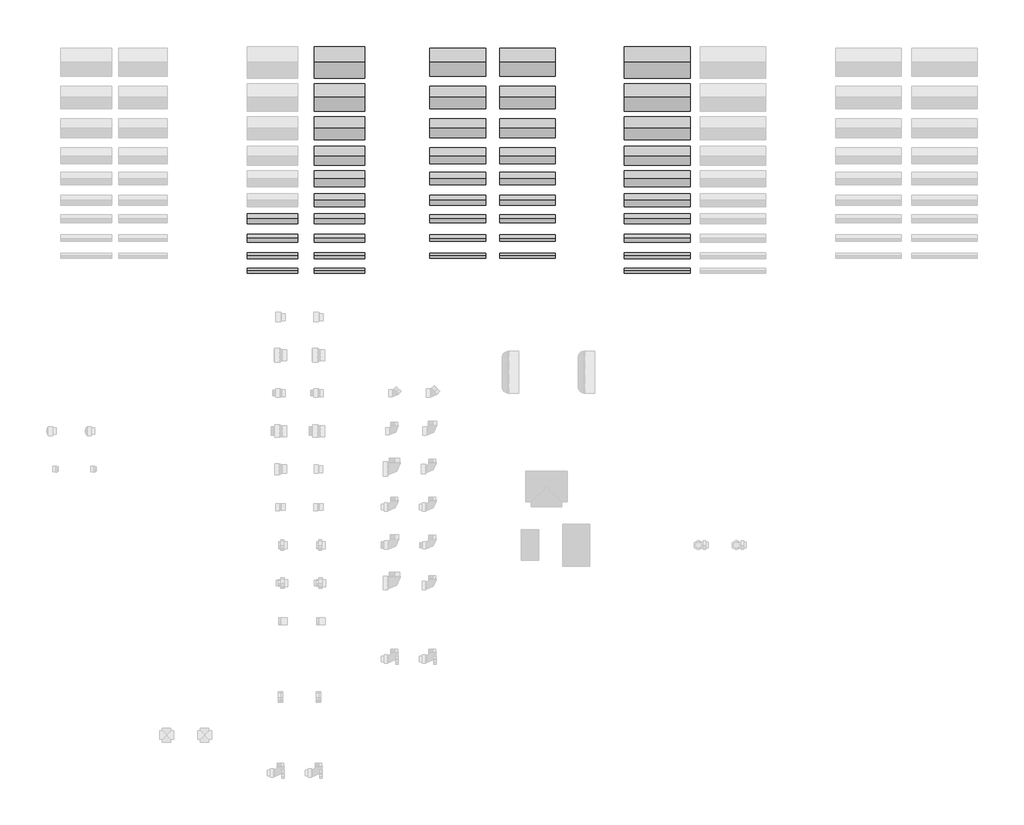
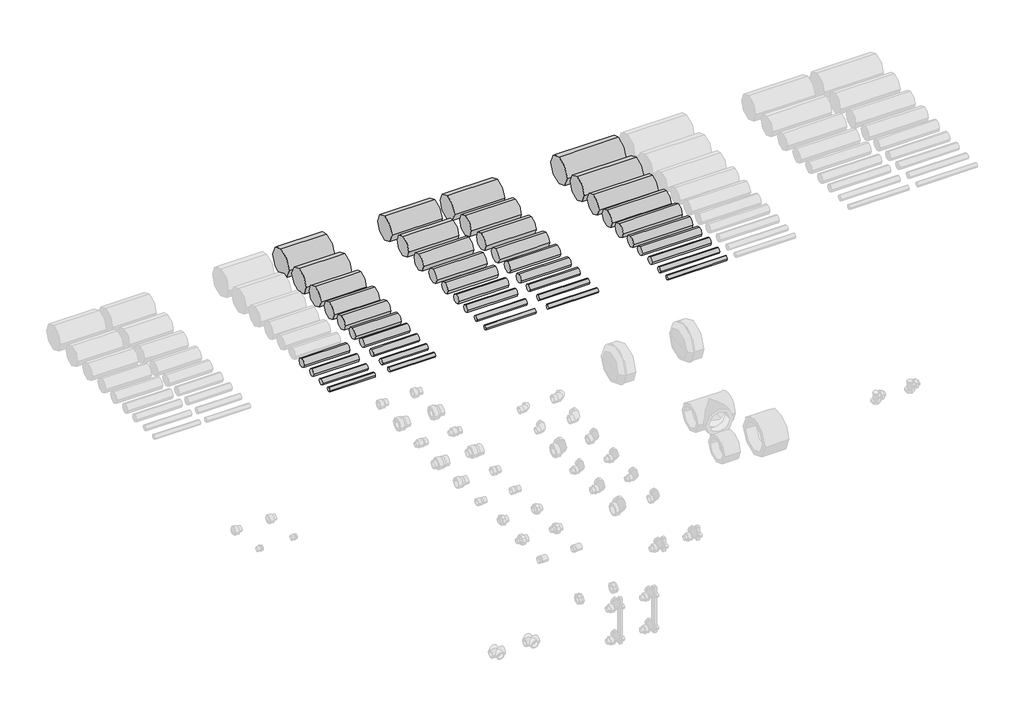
# One storey, part 2 of 4: 42 pipe segments.
"""IFC4 building model written with IfcOpenShell, lengths in millimetres."""

from ifc_helpers import new_model, si_unit, point, frame, frame_2d, origin, place, context, project, spatial, circle_curve, trimmed, segment, composite_curve, outline, extrude, element, save

model = new_model("IFC4")

# Units and contexts
model_context = context("Model", 3, world=origin())
ifc_project = project(units=[si_unit("LENGTHUNIT", "METRE", prefix="MILLI")], contexts=[model_context])

# Site, building, storey
site = spatial("IfcSite", under=ifc_project)
building = spatial("IfcBuilding", under=site)
storey = spatial("IfcBuildingStorey", under=building, Name="Уровень 1", Elevation=0.0)

# Pipe segments
placement = place(None, origin())
element("IfcPipeSegment", 1, ObjectType="PN20/SDR6, 4 м_Серый цвет", at=placement, inside=storey, context=model_context, shape_type="SweptSolid", body=[
    extrude(outline(composite_curve([segment(trimmed(circle_curve(frame_2d((4230.5606883, 0.0)), 20.0), [point((4210.5606883, 0.0))], [point((4230.5606883, 20.0))], False, "CARTESIAN"), True, "CONTINUOUS"), segment(trimmed(circle_curve(frame_2d((4230.5606883, 0.0)), 20.0), [point((4230.5606883, 20.0))], [point((4250.5606883, 0.0))], False, "CARTESIAN"), True, "CONTINUOUS"), segment(trimmed(circle_curve(frame_2d((4230.5606883, 0.0)), 20.0), [point((4250.5606883, 0.0))], [point((4230.5606883, -20.0))], False, "CARTESIAN"), True, "CONTINUOUS"), segment(trimmed(circle_curve(frame_2d((4230.5606883, 0.0)), 20.0), [point((4230.5606883, -20.0))], [point((4210.5606883, 0.0))], False, "CARTESIAN"), True, "CONTINUOUS")], self_intersect=False)), frame((-2594.1554508, 0.0, 0.0), z_axis=(1.0, 0.0, 0.0), x_axis=(0.0, 1.0, 0.0)), (0.0, 0.0, 1.0), 200.0),
])
element("IfcPipeSegment", 2, ObjectType="PN20/SDR6, 4 м_Серый цвет", at=placement, inside=storey, context=model_context, shape_type="SweptSolid", body=[
    extrude(outline(composite_curve([segment(trimmed(circle_curve(frame_2d((4154.7986605, 0.0)), 16.0), [point((4138.7986605, 0.0))], [point((4154.7986605, 16.0))], False, "CARTESIAN"), True, "CONTINUOUS"), segment(trimmed(circle_curve(frame_2d((4154.7986605, 0.0)), 16.0), [point((4154.7986605, 16.0))], [point((4170.7986605, 0.0))], False, "CARTESIAN"), True, "CONTINUOUS"), segment(trimmed(circle_curve(frame_2d((4154.7986605, 0.0)), 16.0), [point((4170.7986605, 0.0))], [point((4154.7986605, -16.0))], False, "CARTESIAN"), True, "CONTINUOUS"), segment(trimmed(circle_curve(frame_2d((4154.7986605, 0.0)), 16.0), [point((4154.7986605, -16.0))], [point((4138.7986605, 0.0))], False, "CARTESIAN"), True, "CONTINUOUS")], self_intersect=False)), frame((-2594.1554508, 0.0, 0.0), z_axis=(1.0, 0.0, 0.0), x_axis=(0.0, 1.0, 0.0)), (0.0, 0.0, 1.0), 200.0),
])
element("IfcPipeSegment", 3, ObjectType="PN20/SDR6, 4 м_Серый цвет", at=placement, inside=storey, context=model_context, shape_type="SweptSolid", body=[
    extrude(outline(composite_curve([segment(trimmed(circle_curve(frame_2d((4085.0159711, 0.0)), 12.5), [point((4072.5159711, 0.0))], [point((4085.0159711, 12.5))], False, "CARTESIAN"), True, "CONTINUOUS"), segment(trimmed(circle_curve(frame_2d((4085.0159711, 0.0)), 12.5), [point((4085.0159711, 12.5))], [point((4097.5159711, 0.0))], False, "CARTESIAN"), True, "CONTINUOUS"), segment(trimmed(circle_curve(frame_2d((4085.0159711, 0.0)), 12.5), [point((4097.5159711, 0.0))], [point((4085.0159711, -12.5))], False, "CARTESIAN"), True, "CONTINUOUS"), segment(trimmed(circle_curve(frame_2d((4085.0159711, 0.0)), 12.5), [point((4085.0159711, -12.5))], [point((4072.5159711, 0.0))], False, "CARTESIAN"), True, "CONTINUOUS")], self_intersect=False)), frame((-2594.1554508, 0.0, 0.0), z_axis=(1.0, 0.0, 0.0), x_axis=(0.0, 1.0, 0.0)), (0.0, 0.0, 1.0), 200.0),
])
element("IfcPipeSegment", 4, ObjectType="PN20/SDR6, 4 м_Серый цвет", at=placement, inside=storey, context=model_context, shape_type="SweptSolid", body=[
    extrude(outline(composite_curve([segment(trimmed(circle_curve(frame_2d((4025.8339977, 0.0)), 10.0), [point((4015.8339977, 0.0))], [point((4025.8339977, 10.0))], False, "CARTESIAN"), True, "CONTINUOUS"), segment(trimmed(circle_curve(frame_2d((4025.8339977, 0.0)), 10.0), [point((4025.8339977, 10.0))], [point((4035.8339977, 0.0))], False, "CARTESIAN"), True, "CONTINUOUS"), segment(trimmed(circle_curve(frame_2d((4025.8339977, 0.0)), 10.0), [point((4035.8339977, 0.0))], [point((4025.8339977, -10.0))], False, "CARTESIAN"), True, "CONTINUOUS"), segment(trimmed(circle_curve(frame_2d((4025.8339977, 0.0)), 10.0), [point((4025.8339977, -10.0))], [point((4015.8339977, 0.0))], False, "CARTESIAN"), True, "CONTINUOUS")], self_intersect=False)), frame((-2594.1554508, 0.0, 0.0), z_axis=(1.0, 0.0, 0.0), x_axis=(0.0, 1.0, 0.0)), (0.0, 0.0, 1.0), 200.0),
])
element("IfcPipeSegment", 5, ObjectType="PN20/SDR6, 4 м_Белый цвет", at=placement, inside=storey, context=model_context, shape_type="SweptSolid", body=[
    extrude(outline(composite_curve([segment(trimmed(circle_curve(frame_2d((4848.4107276, 0.0)), 62.5), [point((4785.9107276, 0.0))], [point((4848.4107276, 62.5))], False, "CARTESIAN"), True, "CONTINUOUS"), segment(trimmed(circle_curve(frame_2d((4848.4107276, 0.0)), 62.5), [point((4848.4107276, 62.5))], [point((4910.9107276, 0.0))], False, "CARTESIAN"), True, "CONTINUOUS"), segment(trimmed(circle_curve(frame_2d((4848.4107276, 0.0)), 62.5), [point((4910.9107276, 0.0))], [point((4848.4107276, -62.5))], False, "CARTESIAN"), True, "CONTINUOUS"), segment(trimmed(circle_curve(frame_2d((4848.4107276, 0.0)), 62.5), [point((4848.4107276, -62.5))], [point((4785.9107276, 0.0))], False, "CARTESIAN"), True, "CONTINUOUS")], self_intersect=False)), frame((-2329.1554508, 0.0, 0.0), z_axis=(1.0, 0.0, 0.0), x_axis=(0.0, 1.0, 0.0)), (0.0, 0.0, 1.0), 200.0),
])
element("IfcPipeSegment", 6, ObjectType="PN20/SDR6, 4 м_Белый цвет", at=placement, inside=storey, context=model_context, shape_type="SweptSolid", body=[
    extrude(outline(composite_curve([segment(trimmed(circle_curve(frame_2d((4709.8355043, 0.0)), 55.0), [point((4654.8355043, 0.0))], [point((4709.8355043, 55.0))], False, "CARTESIAN"), True, "CONTINUOUS"), segment(trimmed(circle_curve(frame_2d((4709.8355043, 0.0)), 55.0), [point((4709.8355043, 55.0))], [point((4764.8355043, 0.0))], False, "CARTESIAN"), True, "CONTINUOUS"), segment(trimmed(circle_curve(frame_2d((4709.8355043, 0.0)), 55.0), [point((4764.8355043, 0.0))], [point((4709.8355043, -55.0))], False, "CARTESIAN"), True, "CONTINUOUS"), segment(trimmed(circle_curve(frame_2d((4709.8355043, 0.0)), 55.0), [point((4709.8355043, -55.0))], [point((4654.8355043, 0.0))], False, "CARTESIAN"), True, "CONTINUOUS")], self_intersect=False)), frame((-2329.1554508, 0.0, 0.0), z_axis=(1.0, 0.0, 0.0), x_axis=(0.0, 1.0, 0.0)), (0.0, 0.0, 1.0), 200.0),
])
element("IfcPipeSegment", 7, ObjectType="PN20/SDR6, 4 м_Белый цвет", at=placement, inside=storey, context=model_context, shape_type="SweptSolid", body=[
    extrude(outline(composite_curve([segment(trimmed(circle_curve(frame_2d((4588.2982183, 0.0)), 45.0), [point((4543.2982183, 0.0))], [point((4588.2982183, 45.0))], False, "CARTESIAN"), True, "CONTINUOUS"), segment(trimmed(circle_curve(frame_2d((4588.2982183, 0.0)), 45.0), [point((4588.2982183, 45.0))], [point((4633.2982183, 0.0))], False, "CARTESIAN"), True, "CONTINUOUS"), segment(trimmed(circle_curve(frame_2d((4588.2982183, 0.0)), 45.0), [point((4633.2982183, 0.0))], [point((4588.2982183, -45.0))], False, "CARTESIAN"), True, "CONTINUOUS"), segment(trimmed(circle_curve(frame_2d((4588.2982183, 0.0)), 45.0), [point((4588.2982183, -45.0))], [point((4543.2982183, 0.0))], False, "CARTESIAN"), True, "CONTINUOUS")], self_intersect=False)), frame((-2329.1554508, 0.0, 0.0), z_axis=(1.0, 0.0, 0.0), x_axis=(0.0, 1.0, 0.0)), (0.0, 0.0, 1.0), 200.0),
])
element("IfcPipeSegment", 8, ObjectType="PN20/SDR6, 4 м_Белый цвет", at=placement, inside=storey, context=model_context, shape_type="SweptSolid", body=[
    extrude(outline(composite_curve([segment(trimmed(circle_curve(frame_2d((4480.6238499, 0.0)), 37.5), [point((4443.1238499, 0.0))], [point((4480.6238499, 37.5))], False, "CARTESIAN"), True, "CONTINUOUS"), segment(trimmed(circle_curve(frame_2d((4480.6238499, 0.0)), 37.5), [point((4480.6238499, 37.5))], [point((4518.1238499, 0.0))], False, "CARTESIAN"), True, "CONTINUOUS"), segment(trimmed(circle_curve(frame_2d((4480.6238499, 0.0)), 37.5), [point((4518.1238499, 0.0))], [point((4480.6238499, -37.5))], False, "CARTESIAN"), True, "CONTINUOUS"), segment(trimmed(circle_curve(frame_2d((4480.6238499, 0.0)), 37.5), [point((4480.6238499, -37.5))], [point((4443.1238499, 0.0))], False, "CARTESIAN"), True, "CONTINUOUS")], self_intersect=False)), frame((-2329.1554508, 0.0, 0.0), z_axis=(1.0, 0.0, 0.0), x_axis=(0.0, 1.0, 0.0)), (0.0, 0.0, 1.0), 200.0),
])
element("IfcPipeSegment", 9, ObjectType="PN20/SDR6, 4 м_Белый цвет", at=placement, inside=storey, context=model_context, shape_type="SweptSolid", body=[
    extrude(outline(composite_curve([segment(trimmed(circle_curve(frame_2d((4389.5013485, 0.0)), 31.5), [point((4358.0013485, 0.0))], [point((4389.5013485, 31.5))], False, "CARTESIAN"), True, "CONTINUOUS"), segment(trimmed(circle_curve(frame_2d((4389.5013485, 0.0)), 31.5), [point((4389.5013485, 31.5))], [point((4421.0013485, 0.0))], False, "CARTESIAN"), True, "CONTINUOUS"), segment(trimmed(circle_curve(frame_2d((4389.5013485, 0.0)), 31.5), [point((4421.0013485, 0.0))], [point((4389.5013485, -31.5))], False, "CARTESIAN"), True, "CONTINUOUS"), segment(trimmed(circle_curve(frame_2d((4389.5013485, 0.0)), 31.5), [point((4389.5013485, -31.5))], [point((4358.0013485, 0.0))], False, "CARTESIAN"), True, "CONTINUOUS")], self_intersect=False)), frame((-2329.1554508, 0.0, 0.0), z_axis=(1.0, 0.0, 0.0), x_axis=(0.0, 1.0, 0.0)), (0.0, 0.0, 1.0), 200.0),
])
element("IfcPipeSegment", 10, ObjectType="PN20/SDR6, 4 м_Белый цвет", at=placement, inside=storey, context=model_context, shape_type="SweptSolid", body=[
    extrude(outline(composite_curve([segment(trimmed(circle_curve(frame_2d((4303.8771946, 0.0)), 25.0), [point((4278.8771946, 0.0))], [point((4303.8771946, 25.0))], False, "CARTESIAN"), True, "CONTINUOUS"), segment(trimmed(circle_curve(frame_2d((4303.8771946, 0.0)), 25.0), [point((4303.8771946, 25.0))], [point((4328.8771946, 0.0))], False, "CARTESIAN"), True, "CONTINUOUS"), segment(trimmed(circle_curve(frame_2d((4303.8771946, 0.0)), 25.0), [point((4328.8771946, 0.0))], [point((4303.8771946, -25.0))], False, "CARTESIAN"), True, "CONTINUOUS"), segment(trimmed(circle_curve(frame_2d((4303.8771946, 0.0)), 25.0), [point((4303.8771946, -25.0))], [point((4278.8771946, 0.0))], False, "CARTESIAN"), True, "CONTINUOUS")], self_intersect=False)), frame((-2329.1554508, 0.0, 0.0), z_axis=(1.0, 0.0, 0.0), x_axis=(0.0, 1.0, 0.0)), (0.0, 0.0, 1.0), 200.0),
])
element("IfcPipeSegment", 11, ObjectType="PN20/SDR6, 4 м_Белый цвет", at=placement, inside=storey, context=model_context, shape_type="SweptSolid", body=[
    extrude(outline(composite_curve([segment(trimmed(circle_curve(frame_2d((4230.5606883, 0.0)), 20.0), [point((4210.5606883, 0.0))], [point((4230.5606883, 20.0))], False, "CARTESIAN"), True, "CONTINUOUS"), segment(trimmed(circle_curve(frame_2d((4230.5606883, 0.0)), 20.0), [point((4230.5606883, 20.0))], [point((4250.5606883, 0.0))], False, "CARTESIAN"), True, "CONTINUOUS"), segment(trimmed(circle_curve(frame_2d((4230.5606883, 0.0)), 20.0), [point((4250.5606883, 0.0))], [point((4230.5606883, -20.0))], False, "CARTESIAN"), True, "CONTINUOUS"), segment(trimmed(circle_curve(frame_2d((4230.5606883, 0.0)), 20.0), [point((4230.5606883, -20.0))], [point((4210.5606883, 0.0))], False, "CARTESIAN"), True, "CONTINUOUS")], self_intersect=False)), frame((-2329.1554508, 0.0, 0.0), z_axis=(1.0, 0.0, 0.0), x_axis=(0.0, 1.0, 0.0)), (0.0, 0.0, 1.0), 200.0),
])
element("IfcPipeSegment", 12, ObjectType="PN20/SDR6, 4 м_Белый цвет", at=placement, inside=storey, context=model_context, shape_type="SweptSolid", body=[
    extrude(outline(composite_curve([segment(trimmed(circle_curve(frame_2d((4154.7986605, 0.0)), 16.0), [point((4138.7986605, 0.0))], [point((4154.7986605, 16.0))], False, "CARTESIAN"), True, "CONTINUOUS"), segment(trimmed(circle_curve(frame_2d((4154.7986605, 0.0)), 16.0), [point((4154.7986605, 16.0))], [point((4170.7986605, 0.0))], False, "CARTESIAN"), True, "CONTINUOUS"), segment(trimmed(circle_curve(frame_2d((4154.7986605, 0.0)), 16.0), [point((4170.7986605, 0.0))], [point((4154.7986605, -16.0))], False, "CARTESIAN"), True, "CONTINUOUS"), segment(trimmed(circle_curve(frame_2d((4154.7986605, 0.0)), 16.0), [point((4154.7986605, -16.0))], [point((4138.7986605, 0.0))], False, "CARTESIAN"), True, "CONTINUOUS")], self_intersect=False)), frame((-2329.1554508, 0.0, 0.0), z_axis=(1.0, 0.0, 0.0), x_axis=(0.0, 1.0, 0.0)), (0.0, 0.0, 1.0), 200.0),
])
element("IfcPipeSegment", 13, ObjectType="PN20/SDR6, 4 м_Белый цвет", at=placement, inside=storey, context=model_context, shape_type="SweptSolid", body=[
    extrude(outline(composite_curve([segment(trimmed(circle_curve(frame_2d((4085.0159711, 0.0)), 12.5), [point((4072.5159711, 0.0))], [point((4085.0159711, 12.5))], False, "CARTESIAN"), True, "CONTINUOUS"), segment(trimmed(circle_curve(frame_2d((4085.0159711, 0.0)), 12.5), [point((4085.0159711, 12.5))], [point((4097.5159711, 0.0))], False, "CARTESIAN"), True, "CONTINUOUS"), segment(trimmed(circle_curve(frame_2d((4085.0159711, 0.0)), 12.5), [point((4097.5159711, 0.0))], [point((4085.0159711, -12.5))], False, "CARTESIAN"), True, "CONTINUOUS"), segment(trimmed(circle_curve(frame_2d((4085.0159711, 0.0)), 12.5), [point((4085.0159711, -12.5))], [point((4072.5159711, 0.0))], False, "CARTESIAN"), True, "CONTINUOUS")], self_intersect=False)), frame((-2329.1554508, 0.0, 0.0), z_axis=(1.0, 0.0, 0.0), x_axis=(0.0, 1.0, 0.0)), (0.0, 0.0, 1.0), 200.0),
])
element("IfcPipeSegment", 14, ObjectType="PN20/SDR6, 4 м_Белый цвет", at=placement, inside=storey, context=model_context, shape_type="SweptSolid", body=[
    extrude(outline(composite_curve([segment(trimmed(circle_curve(frame_2d((4025.8339977, 0.0)), 10.0), [point((4015.8339977, 0.0))], [point((4025.8339977, 10.0))], False, "CARTESIAN"), True, "CONTINUOUS"), segment(trimmed(circle_curve(frame_2d((4025.8339977, 0.0)), 10.0), [point((4025.8339977, 10.0))], [point((4035.8339977, 0.0))], False, "CARTESIAN"), True, "CONTINUOUS"), segment(trimmed(circle_curve(frame_2d((4025.8339977, 0.0)), 10.0), [point((4035.8339977, 0.0))], [point((4025.8339977, -10.0))], False, "CARTESIAN"), True, "CONTINUOUS"), segment(trimmed(circle_curve(frame_2d((4025.8339977, 0.0)), 10.0), [point((4025.8339977, -10.0))], [point((4015.8339977, 0.0))], False, "CARTESIAN"), True, "CONTINUOUS")], self_intersect=False)), frame((-2329.1554508, 0.0, 0.0), z_axis=(1.0, 0.0, 0.0), x_axis=(0.0, 1.0, 0.0)), (0.0, 0.0, 1.0), 200.0),
])
element("IfcPipeSegment", 15, ObjectType="Полипропиленовые трубы, армированные алюминием PN25/SDR6, 4 м_Серый цвет", at=placement, inside=storey, context=model_context, shape_type="SweptSolid", body=[
    extrude(outline(composite_curve([segment(trimmed(circle_curve(frame_2d((4848.4107276, 0.0)), 55.0), [point((4793.4107276, 0.0))], [point((4848.4107276, 55.0))], False, "CARTESIAN"), True, "CONTINUOUS"), segment(trimmed(circle_curve(frame_2d((4848.4107276, 0.0)), 55.0), [point((4848.4107276, 55.0))], [point((4903.4107276, 0.0))], False, "CARTESIAN"), True, "CONTINUOUS"), segment(trimmed(circle_curve(frame_2d((4848.4107276, 0.0)), 55.0), [point((4903.4107276, 0.0))], [point((4848.4107276, -55.0))], False, "CARTESIAN"), True, "CONTINUOUS"), segment(trimmed(circle_curve(frame_2d((4848.4107276, 0.0)), 55.0), [point((4848.4107276, -55.0))], [point((4793.4107276, 0.0))], False, "CARTESIAN"), True, "CONTINUOUS")], self_intersect=False)), frame((-1872.1994718, 0.0, 0.0), z_axis=(1.0, 0.0, 0.0), x_axis=(0.0, 1.0, 0.0)), (0.0, 0.0, 1.0), 220.0),
])
element("IfcPipeSegment", 16, ObjectType="Полипропиленовые трубы, армированные алюминием PN25/SDR6, 4 м_Серый цвет", at=placement, inside=storey, context=model_context, shape_type="SweptSolid", body=[
    extrude(outline(composite_curve([segment(trimmed(circle_curve(frame_2d((4709.8355043, 0.0)), 45.0), [point((4664.8355043, 0.0))], [point((4709.8355043, 45.0))], False, "CARTESIAN"), True, "CONTINUOUS"), segment(trimmed(circle_curve(frame_2d((4709.8355043, 0.0)), 45.0), [point((4709.8355043, 45.0))], [point((4754.8355043, 0.0))], False, "CARTESIAN"), True, "CONTINUOUS"), segment(trimmed(circle_curve(frame_2d((4709.8355043, 0.0)), 45.0), [point((4754.8355043, 0.0))], [point((4709.8355043, -45.0))], False, "CARTESIAN"), True, "CONTINUOUS"), segment(trimmed(circle_curve(frame_2d((4709.8355043, 0.0)), 45.0), [point((4709.8355043, -45.0))], [point((4664.8355043, 0.0))], False, "CARTESIAN"), True, "CONTINUOUS")], self_intersect=False)), frame((-1872.1994718, 0.0, 0.0), z_axis=(1.0, 0.0, 0.0), x_axis=(0.0, 1.0, 0.0)), (0.0, 0.0, 1.0), 220.0),
])
element("IfcPipeSegment", 17, ObjectType="Полипропиленовые трубы, армированные алюминием PN25/SDR6, 4 м_Серый цвет", at=placement, inside=storey, context=model_context, shape_type="SweptSolid", body=[
    extrude(outline(composite_curve([segment(trimmed(circle_curve(frame_2d((4588.2982183, 0.0)), 37.5), [point((4550.7982183, 0.0))], [point((4588.2982183, 37.5))], False, "CARTESIAN"), True, "CONTINUOUS"), segment(trimmed(circle_curve(frame_2d((4588.2982183, 0.0)), 37.5), [point((4588.2982183, 37.5))], [point((4625.7982183, 0.0))], False, "CARTESIAN"), True, "CONTINUOUS"), segment(trimmed(circle_curve(frame_2d((4588.2982183, 0.0)), 37.5), [point((4625.7982183, 0.0))], [point((4588.2982183, -37.5))], False, "CARTESIAN"), True, "CONTINUOUS"), segment(trimmed(circle_curve(frame_2d((4588.2982183, 0.0)), 37.5), [point((4588.2982183, -37.5))], [point((4550.7982183, 0.0))], False, "CARTESIAN"), True, "CONTINUOUS")], self_intersect=False)), frame((-1872.1994718, 0.0, 0.0), z_axis=(1.0, 0.0, 0.0), x_axis=(0.0, 1.0, 0.0)), (0.0, 0.0, 1.0), 220.0),
])
element("IfcPipeSegment", 18, ObjectType="Полипропиленовые трубы, армированные алюминием PN25/SDR6, 4 м_Серый цвет", at=placement, inside=storey, context=model_context, shape_type="SweptSolid", body=[
    extrude(outline(composite_curve([segment(trimmed(circle_curve(frame_2d((4480.6238499, 0.0)), 31.5), [point((4449.1238499, 0.0))], [point((4480.6238499, 31.5))], False, "CARTESIAN"), True, "CONTINUOUS"), segment(trimmed(circle_curve(frame_2d((4480.6238499, 0.0)), 31.5), [point((4480.6238499, 31.5))], [point((4512.1238499, 0.0))], False, "CARTESIAN"), True, "CONTINUOUS"), segment(trimmed(circle_curve(frame_2d((4480.6238499, 0.0)), 31.5), [point((4512.1238499, 0.0))], [point((4480.6238499, -31.5))], False, "CARTESIAN"), True, "CONTINUOUS"), segment(trimmed(circle_curve(frame_2d((4480.6238499, 0.0)), 31.5), [point((4480.6238499, -31.5))], [point((4449.1238499, 0.0))], False, "CARTESIAN"), True, "CONTINUOUS")], self_intersect=False)), frame((-1872.1994718, 0.0, 0.0), z_axis=(1.0, 0.0, 0.0), x_axis=(0.0, 1.0, 0.0)), (0.0, 0.0, 1.0), 220.0),
])
element("IfcPipeSegment", 19, ObjectType="Полипропиленовые трубы, армированные алюминием PN25/SDR6, 4 м_Серый цвет", at=placement, inside=storey, context=model_context, shape_type="SweptSolid", body=[
    extrude(outline(composite_curve([segment(trimmed(circle_curve(frame_2d((4389.5013485, 0.0)), 25.0), [point((4364.5013485, 0.0))], [point((4389.5013485, 25.0))], False, "CARTESIAN"), True, "CONTINUOUS"), segment(trimmed(circle_curve(frame_2d((4389.5013485, 0.0)), 25.0), [point((4389.5013485, 25.0))], [point((4414.5013485, 0.0))], False, "CARTESIAN"), True, "CONTINUOUS"), segment(trimmed(circle_curve(frame_2d((4389.5013485, 0.0)), 25.0), [point((4414.5013485, 0.0))], [point((4389.5013485, -25.0))], False, "CARTESIAN"), True, "CONTINUOUS"), segment(trimmed(circle_curve(frame_2d((4389.5013485, 0.0)), 25.0), [point((4389.5013485, -25.0))], [point((4364.5013485, 0.0))], False, "CARTESIAN"), True, "CONTINUOUS")], self_intersect=False)), frame((-1872.1994718, 0.0, 0.0), z_axis=(1.0, 0.0, 0.0), x_axis=(0.0, 1.0, 0.0)), (0.0, 0.0, 1.0), 220.0),
])
element("IfcPipeSegment", 20, ObjectType="Полипропиленовые трубы, армированные алюминием PN25/SDR6, 4 м_Серый цвет", at=placement, inside=storey, context=model_context, shape_type="SweptSolid", body=[
    extrude(outline(composite_curve([segment(trimmed(circle_curve(frame_2d((4303.8771946, 0.0)), 20.0), [point((4283.8771946, 0.0))], [point((4303.8771946, 20.0))], False, "CARTESIAN"), True, "CONTINUOUS"), segment(trimmed(circle_curve(frame_2d((4303.8771946, 0.0)), 20.0), [point((4303.8771946, 20.0))], [point((4323.8771946, 0.0))], False, "CARTESIAN"), True, "CONTINUOUS"), segment(trimmed(circle_curve(frame_2d((4303.8771946, 0.0)), 20.0), [point((4323.8771946, 0.0))], [point((4303.8771946, -20.0))], False, "CARTESIAN"), True, "CONTINUOUS"), segment(trimmed(circle_curve(frame_2d((4303.8771946, 0.0)), 20.0), [point((4303.8771946, -20.0))], [point((4283.8771946, 0.0))], False, "CARTESIAN"), True, "CONTINUOUS")], self_intersect=False)), frame((-1872.1994718, 0.0, 0.0), z_axis=(1.0, 0.0, 0.0), x_axis=(0.0, 1.0, 0.0)), (0.0, 0.0, 1.0), 220.0),
])
element("IfcPipeSegment", 21, ObjectType="Полипропиленовые трубы, армированные алюминием PN25/SDR6, 4 м_Серый цвет", at=placement, inside=storey, context=model_context, shape_type="SweptSolid", body=[
    extrude(outline(composite_curve([segment(trimmed(circle_curve(frame_2d((4230.5606883, 0.0)), 16.0), [point((4214.5606883, 0.0))], [point((4230.5606883, 16.0))], False, "CARTESIAN"), True, "CONTINUOUS"), segment(trimmed(circle_curve(frame_2d((4230.5606883, 0.0)), 16.0), [point((4230.5606883, 16.0))], [point((4246.5606883, 0.0))], False, "CARTESIAN"), True, "CONTINUOUS"), segment(trimmed(circle_curve(frame_2d((4230.5606883, 0.0)), 16.0), [point((4246.5606883, 0.0))], [point((4230.5606883, -16.0))], False, "CARTESIAN"), True, "CONTINUOUS"), segment(trimmed(circle_curve(frame_2d((4230.5606883, 0.0)), 16.0), [point((4230.5606883, -16.0))], [point((4214.5606883, 0.0))], False, "CARTESIAN"), True, "CONTINUOUS")], self_intersect=False)), frame((-1872.1994718, 0.0, 0.0), z_axis=(1.0, 0.0, 0.0), x_axis=(0.0, 1.0, 0.0)), (0.0, 0.0, 1.0), 220.0),
])
element("IfcPipeSegment", 22, ObjectType="Полипропиленовые трубы, армированные алюминием PN25/SDR6, 4 м_Серый цвет", at=placement, inside=storey, context=model_context, shape_type="SweptSolid", body=[
    extrude(outline(composite_curve([segment(trimmed(circle_curve(frame_2d((4154.7986605, 0.0)), 12.5), [point((4142.2986605, 0.0))], [point((4154.7986605, 12.5))], False, "CARTESIAN"), True, "CONTINUOUS"), segment(trimmed(circle_curve(frame_2d((4154.7986605, 0.0)), 12.5), [point((4154.7986605, 12.5))], [point((4167.2986605, 0.0))], False, "CARTESIAN"), True, "CONTINUOUS"), segment(trimmed(circle_curve(frame_2d((4154.7986605, 0.0)), 12.5), [point((4167.2986605, 0.0))], [point((4154.7986605, -12.5))], False, "CARTESIAN"), True, "CONTINUOUS"), segment(trimmed(circle_curve(frame_2d((4154.7986605, 0.0)), 12.5), [point((4154.7986605, -12.5))], [point((4142.2986605, 0.0))], False, "CARTESIAN"), True, "CONTINUOUS")], self_intersect=False)), frame((-1872.1994718, 0.0, 0.0), z_axis=(1.0, 0.0, 0.0), x_axis=(0.0, 1.0, 0.0)), (0.0, 0.0, 1.0), 220.0),
])
element("IfcPipeSegment", 23, ObjectType="Полипропиленовые трубы, армированные алюминием PN25/SDR6, 4 м_Серый цвет", at=placement, inside=storey, context=model_context, shape_type="SweptSolid", body=[
    extrude(outline(composite_curve([segment(trimmed(circle_curve(frame_2d((4085.0159711, 0.0)), 10.0), [point((4075.0159711, 0.0))], [point((4085.0159711, 10.0))], False, "CARTESIAN"), True, "CONTINUOUS"), segment(trimmed(circle_curve(frame_2d((4085.0159711, 0.0)), 10.0), [point((4085.0159711, 10.0))], [point((4095.0159711, 0.0))], False, "CARTESIAN"), True, "CONTINUOUS"), segment(trimmed(circle_curve(frame_2d((4085.0159711, 0.0)), 10.0), [point((4095.0159711, 0.0))], [point((4085.0159711, -10.0))], False, "CARTESIAN"), True, "CONTINUOUS"), segment(trimmed(circle_curve(frame_2d((4085.0159711, 0.0)), 10.0), [point((4085.0159711, -10.0))], [point((4075.0159711, 0.0))], False, "CARTESIAN"), True, "CONTINUOUS")], self_intersect=False)), frame((-1872.1994718, 0.0, 0.0), z_axis=(1.0, 0.0, 0.0), x_axis=(0.0, 1.0, 0.0)), (0.0, 0.0, 1.0), 220.0),
])
element("IfcPipeSegment", 24, ObjectType="Полипропиленовые трубы, армированные алюминием PN25/SDR6, 4 м_Белый цвет", at=placement, inside=storey, context=model_context, shape_type="SweptSolid", body=[
    extrude(outline(composite_curve([segment(trimmed(circle_curve(frame_2d((4848.4107276, 0.0)), 55.0), [point((4793.4107276, 0.0))], [point((4848.4107276, 55.0))], False, "CARTESIAN"), True, "CONTINUOUS"), segment(trimmed(circle_curve(frame_2d((4848.4107276, 0.0)), 55.0), [point((4848.4107276, 55.0))], [point((4903.4107276, 0.0))], False, "CARTESIAN"), True, "CONTINUOUS"), segment(trimmed(circle_curve(frame_2d((4848.4107276, 0.0)), 55.0), [point((4903.4107276, 0.0))], [point((4848.4107276, -55.0))], False, "CARTESIAN"), True, "CONTINUOUS"), segment(trimmed(circle_curve(frame_2d((4848.4107276, 0.0)), 55.0), [point((4848.4107276, -55.0))], [point((4793.4107276, 0.0))], False, "CARTESIAN"), True, "CONTINUOUS")], self_intersect=False)), frame((-1597.1994718, 0.0, 0.0), z_axis=(1.0, 0.0, 0.0), x_axis=(0.0, 1.0, 0.0)), (0.0, 0.0, 1.0), 220.0),
])
element("IfcPipeSegment", 25, ObjectType="Полипропиленовые трубы, армированные алюминием PN25/SDR6, 4 м_Белый цвет", at=placement, inside=storey, context=model_context, shape_type="SweptSolid", body=[
    extrude(outline(composite_curve([segment(trimmed(circle_curve(frame_2d((4709.8355043, 0.0)), 45.0), [point((4664.8355043, 0.0))], [point((4709.8355043, 45.0))], False, "CARTESIAN"), True, "CONTINUOUS"), segment(trimmed(circle_curve(frame_2d((4709.8355043, 0.0)), 45.0), [point((4709.8355043, 45.0))], [point((4754.8355043, 0.0))], False, "CARTESIAN"), True, "CONTINUOUS"), segment(trimmed(circle_curve(frame_2d((4709.8355043, 0.0)), 45.0), [point((4754.8355043, 0.0))], [point((4709.8355043, -45.0))], False, "CARTESIAN"), True, "CONTINUOUS"), segment(trimmed(circle_curve(frame_2d((4709.8355043, 0.0)), 45.0), [point((4709.8355043, -45.0))], [point((4664.8355043, 0.0))], False, "CARTESIAN"), True, "CONTINUOUS")], self_intersect=False)), frame((-1597.1994718, 0.0, 0.0), z_axis=(1.0, 0.0, 0.0), x_axis=(0.0, 1.0, 0.0)), (0.0, 0.0, 1.0), 220.0),
])
element("IfcPipeSegment", 26, ObjectType="Полипропиленовые трубы, армированные алюминием PN25/SDR6, 4 м_Белый цвет", at=placement, inside=storey, context=model_context, shape_type="SweptSolid", body=[
    extrude(outline(composite_curve([segment(trimmed(circle_curve(frame_2d((4588.2982183, 0.0)), 37.5), [point((4550.7982183, 0.0))], [point((4588.2982183, 37.5))], False, "CARTESIAN"), True, "CONTINUOUS"), segment(trimmed(circle_curve(frame_2d((4588.2982183, 0.0)), 37.5), [point((4588.2982183, 37.5))], [point((4625.7982183, 0.0))], False, "CARTESIAN"), True, "CONTINUOUS"), segment(trimmed(circle_curve(frame_2d((4588.2982183, 0.0)), 37.5), [point((4625.7982183, 0.0))], [point((4588.2982183, -37.5))], False, "CARTESIAN"), True, "CONTINUOUS"), segment(trimmed(circle_curve(frame_2d((4588.2982183, 0.0)), 37.5), [point((4588.2982183, -37.5))], [point((4550.7982183, 0.0))], False, "CARTESIAN"), True, "CONTINUOUS")], self_intersect=False)), frame((-1597.1994718, 0.0, 0.0), z_axis=(1.0, 0.0, 0.0), x_axis=(0.0, 1.0, 0.0)), (0.0, 0.0, 1.0), 220.0),
])
element("IfcPipeSegment", 27, ObjectType="Полипропиленовые трубы, армированные алюминием PN25/SDR6, 4 м_Белый цвет", at=placement, inside=storey, context=model_context, shape_type="SweptSolid", body=[
    extrude(outline(composite_curve([segment(trimmed(circle_curve(frame_2d((4480.6238499, 0.0)), 31.5), [point((4449.1238499, 0.0))], [point((4480.6238499, 31.5))], False, "CARTESIAN"), True, "CONTINUOUS"), segment(trimmed(circle_curve(frame_2d((4480.6238499, 0.0)), 31.5), [point((4480.6238499, 31.5))], [point((4512.1238499, 0.0))], False, "CARTESIAN"), True, "CONTINUOUS"), segment(trimmed(circle_curve(frame_2d((4480.6238499, 0.0)), 31.5), [point((4512.1238499, 0.0))], [point((4480.6238499, -31.5))], False, "CARTESIAN"), True, "CONTINUOUS"), segment(trimmed(circle_curve(frame_2d((4480.6238499, 0.0)), 31.5), [point((4480.6238499, -31.5))], [point((4449.1238499, 0.0))], False, "CARTESIAN"), True, "CONTINUOUS")], self_intersect=False)), frame((-1597.1994718, 0.0, 0.0), z_axis=(1.0, 0.0, 0.0), x_axis=(0.0, 1.0, 0.0)), (0.0, 0.0, 1.0), 220.0),
])
element("IfcPipeSegment", 28, ObjectType="Полипропиленовые трубы, армированные алюминием PN25/SDR6, 4 м_Белый цвет", at=placement, inside=storey, context=model_context, shape_type="SweptSolid", body=[
    extrude(outline(composite_curve([segment(trimmed(circle_curve(frame_2d((4389.5013485, 0.0)), 25.0), [point((4364.5013485, 0.0))], [point((4389.5013485, 25.0))], False, "CARTESIAN"), True, "CONTINUOUS"), segment(trimmed(circle_curve(frame_2d((4389.5013485, 0.0)), 25.0), [point((4389.5013485, 25.0))], [point((4414.5013485, 0.0))], False, "CARTESIAN"), True, "CONTINUOUS"), segment(trimmed(circle_curve(frame_2d((4389.5013485, 0.0)), 25.0), [point((4414.5013485, 0.0))], [point((4389.5013485, -25.0))], False, "CARTESIAN"), True, "CONTINUOUS"), segment(trimmed(circle_curve(frame_2d((4389.5013485, 0.0)), 25.0), [point((4389.5013485, -25.0))], [point((4364.5013485, 0.0))], False, "CARTESIAN"), True, "CONTINUOUS")], self_intersect=False)), frame((-1597.1994718, 0.0, 0.0), z_axis=(1.0, 0.0, 0.0), x_axis=(0.0, 1.0, 0.0)), (0.0, 0.0, 1.0), 220.0),
])
element("IfcPipeSegment", 29, ObjectType="Полипропиленовые трубы, армированные алюминием PN25/SDR6, 4 м_Белый цвет", at=placement, inside=storey, context=model_context, shape_type="SweptSolid", body=[
    extrude(outline(composite_curve([segment(trimmed(circle_curve(frame_2d((4303.8771946, 0.0)), 20.0), [point((4283.8771946, 0.0))], [point((4303.8771946, 20.0))], False, "CARTESIAN"), True, "CONTINUOUS"), segment(trimmed(circle_curve(frame_2d((4303.8771946, 0.0)), 20.0), [point((4303.8771946, 20.0))], [point((4323.8771946, 0.0))], False, "CARTESIAN"), True, "CONTINUOUS"), segment(trimmed(circle_curve(frame_2d((4303.8771946, 0.0)), 20.0), [point((4323.8771946, 0.0))], [point((4303.8771946, -20.0))], False, "CARTESIAN"), True, "CONTINUOUS"), segment(trimmed(circle_curve(frame_2d((4303.8771946, 0.0)), 20.0), [point((4303.8771946, -20.0))], [point((4283.8771946, 0.0))], False, "CARTESIAN"), True, "CONTINUOUS")], self_intersect=False)), frame((-1597.1994718, 0.0, 0.0), z_axis=(1.0, 0.0, 0.0), x_axis=(0.0, 1.0, 0.0)), (0.0, 0.0, 1.0), 220.0),
])
element("IfcPipeSegment", 30, ObjectType="Полипропиленовые трубы, армированные алюминием PN25/SDR6, 4 м_Белый цвет", at=placement, inside=storey, context=model_context, shape_type="SweptSolid", body=[
    extrude(outline(composite_curve([segment(trimmed(circle_curve(frame_2d((4230.5606883, 0.0)), 16.0), [point((4214.5606883, 0.0))], [point((4230.5606883, 16.0))], False, "CARTESIAN"), True, "CONTINUOUS"), segment(trimmed(circle_curve(frame_2d((4230.5606883, 0.0)), 16.0), [point((4230.5606883, 16.0))], [point((4246.5606883, 0.0))], False, "CARTESIAN"), True, "CONTINUOUS"), segment(trimmed(circle_curve(frame_2d((4230.5606883, 0.0)), 16.0), [point((4246.5606883, 0.0))], [point((4230.5606883, -16.0))], False, "CARTESIAN"), True, "CONTINUOUS"), segment(trimmed(circle_curve(frame_2d((4230.5606883, 0.0)), 16.0), [point((4230.5606883, -16.0))], [point((4214.5606883, 0.0))], False, "CARTESIAN"), True, "CONTINUOUS")], self_intersect=False)), frame((-1597.1994718, 0.0, 0.0), z_axis=(1.0, 0.0, 0.0), x_axis=(0.0, 1.0, 0.0)), (0.0, 0.0, 1.0), 220.0),
])
element("IfcPipeSegment", 31, ObjectType="Полипропиленовые трубы, армированные алюминием PN25/SDR6, 4 м_Белый цвет", at=placement, inside=storey, context=model_context, shape_type="SweptSolid", body=[
    extrude(outline(composite_curve([segment(trimmed(circle_curve(frame_2d((4154.7986605, 0.0)), 12.5), [point((4142.2986605, 0.0))], [point((4154.7986605, 12.5))], False, "CARTESIAN"), True, "CONTINUOUS"), segment(trimmed(circle_curve(frame_2d((4154.7986605, 0.0)), 12.5), [point((4154.7986605, 12.5))], [point((4167.2986605, 0.0))], False, "CARTESIAN"), True, "CONTINUOUS"), segment(trimmed(circle_curve(frame_2d((4154.7986605, 0.0)), 12.5), [point((4167.2986605, 0.0))], [point((4154.7986605, -12.5))], False, "CARTESIAN"), True, "CONTINUOUS"), segment(trimmed(circle_curve(frame_2d((4154.7986605, 0.0)), 12.5), [point((4154.7986605, -12.5))], [point((4142.2986605, 0.0))], False, "CARTESIAN"), True, "CONTINUOUS")], self_intersect=False)), frame((-1597.1994718, 0.0, 0.0), z_axis=(1.0, 0.0, 0.0), x_axis=(0.0, 1.0, 0.0)), (0.0, 0.0, 1.0), 220.0),
])
element("IfcPipeSegment", 32, ObjectType="Полипропиленовые трубы, армированные алюминием PN25/SDR6, 4 м_Белый цвет", at=placement, inside=storey, context=model_context, shape_type="SweptSolid", body=[
    extrude(outline(composite_curve([segment(trimmed(circle_curve(frame_2d((4085.0159711, 0.0)), 10.0), [point((4075.0159711, 0.0))], [point((4085.0159711, 10.0))], False, "CARTESIAN"), True, "CONTINUOUS"), segment(trimmed(circle_curve(frame_2d((4085.0159711, 0.0)), 10.0), [point((4085.0159711, 10.0))], [point((4095.0159711, 0.0))], False, "CARTESIAN"), True, "CONTINUOUS"), segment(trimmed(circle_curve(frame_2d((4085.0159711, 0.0)), 10.0), [point((4095.0159711, 0.0))], [point((4085.0159711, -10.0))], False, "CARTESIAN"), True, "CONTINUOUS"), segment(trimmed(circle_curve(frame_2d((4085.0159711, 0.0)), 10.0), [point((4085.0159711, -10.0))], [point((4075.0159711, 0.0))], False, "CARTESIAN"), True, "CONTINUOUS")], self_intersect=False)), frame((-1597.1994718, 0.0, 0.0), z_axis=(1.0, 0.0, 0.0), x_axis=(0.0, 1.0, 0.0)), (0.0, 0.0, 1.0), 220.0),
])
element("IfcPipeSegment", 33, ObjectType="Полипропиленовые трубы, армированные стекловолокном PN20/SDR7, 4, 2 м_Серый цвет", at=placement, inside=storey, context=model_context, shape_type="SweptSolid", body=[
    extrude(outline(composite_curve([segment(trimmed(circle_curve(frame_2d((4848.4107276, 0.0)), 62.5), [point((4785.9107276, 0.0))], [point((4848.4107276, 62.5))], False, "CARTESIAN"), True, "CONTINUOUS"), segment(trimmed(circle_curve(frame_2d((4848.4107276, 0.0)), 62.5), [point((4848.4107276, 62.5))], [point((4910.9107276, 0.0))], False, "CARTESIAN"), True, "CONTINUOUS"), segment(trimmed(circle_curve(frame_2d((4848.4107276, 0.0)), 62.5), [point((4910.9107276, 0.0))], [point((4848.4107276, -62.5))], False, "CARTESIAN"), True, "CONTINUOUS"), segment(trimmed(circle_curve(frame_2d((4848.4107276, 0.0)), 62.5), [point((4848.4107276, -62.5))], [point((4785.9107276, 0.0))], False, "CARTESIAN"), True, "CONTINUOUS")], self_intersect=False)), frame((-1105.4115178, 0.0, 0.0), z_axis=(1.0, 0.0, 0.0), x_axis=(0.0, 1.0, 0.0)), (0.0, 0.0, 1.0), 260.0),
])
element("IfcPipeSegment", 34, ObjectType="Полипропиленовые трубы, армированные стекловолокном PN20/SDR7, 4, 2 м_Серый цвет", at=placement, inside=storey, context=model_context, shape_type="SweptSolid", body=[
    extrude(outline(composite_curve([segment(trimmed(circle_curve(frame_2d((4709.8355043, 0.0)), 55.0), [point((4654.8355043, 0.0))], [point((4709.8355043, 55.0))], False, "CARTESIAN"), True, "CONTINUOUS"), segment(trimmed(circle_curve(frame_2d((4709.8355043, 0.0)), 55.0), [point((4709.8355043, 55.0))], [point((4764.8355043, 0.0))], False, "CARTESIAN"), True, "CONTINUOUS"), segment(trimmed(circle_curve(frame_2d((4709.8355043, 0.0)), 55.0), [point((4764.8355043, 0.0))], [point((4709.8355043, -55.0))], False, "CARTESIAN"), True, "CONTINUOUS"), segment(trimmed(circle_curve(frame_2d((4709.8355043, 0.0)), 55.0), [point((4709.8355043, -55.0))], [point((4654.8355043, 0.0))], False, "CARTESIAN"), True, "CONTINUOUS")], self_intersect=False)), frame((-1105.4115178, 0.0, 0.0), z_axis=(1.0, 0.0, 0.0), x_axis=(0.0, 1.0, 0.0)), (0.0, 0.0, 1.0), 260.0),
])
element("IfcPipeSegment", 35, ObjectType="Полипропиленовые трубы, армированные стекловолокном PN20/SDR7, 4, 2 м_Серый цвет", at=placement, inside=storey, context=model_context, shape_type="SweptSolid", body=[
    extrude(outline(composite_curve([segment(trimmed(circle_curve(frame_2d((4588.2982183, 0.0)), 45.0), [point((4543.2982183, 0.0))], [point((4588.2982183, 45.0))], False, "CARTESIAN"), True, "CONTINUOUS"), segment(trimmed(circle_curve(frame_2d((4588.2982183, 0.0)), 45.0), [point((4588.2982183, 45.0))], [point((4633.2982183, 0.0))], False, "CARTESIAN"), True, "CONTINUOUS"), segment(trimmed(circle_curve(frame_2d((4588.2982183, 0.0)), 45.0), [point((4633.2982183, 0.0))], [point((4588.2982183, -45.0))], False, "CARTESIAN"), True, "CONTINUOUS"), segment(trimmed(circle_curve(frame_2d((4588.2982183, 0.0)), 45.0), [point((4588.2982183, -45.0))], [point((4543.2982183, 0.0))], False, "CARTESIAN"), True, "CONTINUOUS")], self_intersect=False)), frame((-1105.4115178, 0.0, 0.0), z_axis=(1.0, 0.0, 0.0), x_axis=(0.0, 1.0, 0.0)), (0.0, 0.0, 1.0), 260.0),
])
element("IfcPipeSegment", 36, ObjectType="Полипропиленовые трубы, армированные стекловолокном PN20/SDR7, 4, 2 м_Серый цвет", at=placement, inside=storey, context=model_context, shape_type="SweptSolid", body=[
    extrude(outline(composite_curve([segment(trimmed(circle_curve(frame_2d((4480.6238499, 0.0)), 37.5), [point((4443.1238499, 0.0))], [point((4480.6238499, 37.5))], False, "CARTESIAN"), True, "CONTINUOUS"), segment(trimmed(circle_curve(frame_2d((4480.6238499, 0.0)), 37.5), [point((4480.6238499, 37.5))], [point((4518.1238499, 0.0))], False, "CARTESIAN"), True, "CONTINUOUS"), segment(trimmed(circle_curve(frame_2d((4480.6238499, 0.0)), 37.5), [point((4518.1238499, 0.0))], [point((4480.6238499, -37.5))], False, "CARTESIAN"), True, "CONTINUOUS"), segment(trimmed(circle_curve(frame_2d((4480.6238499, 0.0)), 37.5), [point((4480.6238499, -37.5))], [point((4443.1238499, 0.0))], False, "CARTESIAN"), True, "CONTINUOUS")], self_intersect=False)), frame((-1105.4115178, 0.0, 0.0), z_axis=(1.0, 0.0, 0.0), x_axis=(0.0, 1.0, 0.0)), (0.0, 0.0, 1.0), 260.0),
])
element("IfcPipeSegment", 37, ObjectType="Полипропиленовые трубы, армированные стекловолокном PN20/SDR7, 4, 2 м_Серый цвет", at=placement, inside=storey, context=model_context, shape_type="SweptSolid", body=[
    extrude(outline(composite_curve([segment(trimmed(circle_curve(frame_2d((4389.5013485, 0.0)), 31.5), [point((4358.0013485, 0.0))], [point((4389.5013485, 31.5))], False, "CARTESIAN"), True, "CONTINUOUS"), segment(trimmed(circle_curve(frame_2d((4389.5013485, 0.0)), 31.5), [point((4389.5013485, 31.5))], [point((4421.0013485, 0.0))], False, "CARTESIAN"), True, "CONTINUOUS"), segment(trimmed(circle_curve(frame_2d((4389.5013485, 0.0)), 31.5), [point((4421.0013485, 0.0))], [point((4389.5013485, -31.5))], False, "CARTESIAN"), True, "CONTINUOUS"), segment(trimmed(circle_curve(frame_2d((4389.5013485, 0.0)), 31.5), [point((4389.5013485, -31.5))], [point((4358.0013485, 0.0))], False, "CARTESIAN"), True, "CONTINUOUS")], self_intersect=False)), frame((-1105.4115178, 0.0, 0.0), z_axis=(1.0, 0.0, 0.0), x_axis=(0.0, 1.0, 0.0)), (0.0, 0.0, 1.0), 260.0),
])
element("IfcPipeSegment", 38, ObjectType="Полипропиленовые трубы, армированные стекловолокном PN20/SDR7, 4, 2 м_Серый цвет", at=placement, inside=storey, context=model_context, shape_type="SweptSolid", body=[
    extrude(outline(composite_curve([segment(trimmed(circle_curve(frame_2d((4303.8771946, 0.0)), 25.0), [point((4278.8771946, 0.0))], [point((4303.8771946, 25.0))], False, "CARTESIAN"), True, "CONTINUOUS"), segment(trimmed(circle_curve(frame_2d((4303.8771946, 0.0)), 25.0), [point((4303.8771946, 25.0))], [point((4328.8771946, 0.0))], False, "CARTESIAN"), True, "CONTINUOUS"), segment(trimmed(circle_curve(frame_2d((4303.8771946, 0.0)), 25.0), [point((4328.8771946, 0.0))], [point((4303.8771946, -25.0))], False, "CARTESIAN"), True, "CONTINUOUS"), segment(trimmed(circle_curve(frame_2d((4303.8771946, 0.0)), 25.0), [point((4303.8771946, -25.0))], [point((4278.8771946, 0.0))], False, "CARTESIAN"), True, "CONTINUOUS")], self_intersect=False)), frame((-1105.4115178, 0.0, 0.0), z_axis=(1.0, 0.0, 0.0), x_axis=(0.0, 1.0, 0.0)), (0.0, 0.0, 1.0), 260.0),
])
element("IfcPipeSegment", 39, ObjectType="Полипропиленовые трубы, армированные стекловолокном PN20/SDR7, 4, 2 м_Серый цвет", at=placement, inside=storey, context=model_context, shape_type="SweptSolid", body=[
    extrude(outline(composite_curve([segment(trimmed(circle_curve(frame_2d((4230.5606883, 0.0)), 20.0), [point((4210.5606883, 0.0))], [point((4230.5606883, 20.0))], False, "CARTESIAN"), True, "CONTINUOUS"), segment(trimmed(circle_curve(frame_2d((4230.5606883, 0.0)), 20.0), [point((4230.5606883, 20.0))], [point((4250.5606883, 0.0))], False, "CARTESIAN"), True, "CONTINUOUS"), segment(trimmed(circle_curve(frame_2d((4230.5606883, 0.0)), 20.0), [point((4250.5606883, 0.0))], [point((4230.5606883, -20.0))], False, "CARTESIAN"), True, "CONTINUOUS"), segment(trimmed(circle_curve(frame_2d((4230.5606883, 0.0)), 20.0), [point((4230.5606883, -20.0))], [point((4210.5606883, 0.0))], False, "CARTESIAN"), True, "CONTINUOUS")], self_intersect=False)), frame((-1105.4115178, 0.0, 0.0), z_axis=(1.0, 0.0, 0.0), x_axis=(0.0, 1.0, 0.0)), (0.0, 0.0, 1.0), 260.0),
])
element("IfcPipeSegment", 40, ObjectType="Полипропиленовые трубы, армированные стекловолокном PN20/SDR7, 4, 2 м_Серый цвет", at=placement, inside=storey, context=model_context, shape_type="SweptSolid", body=[
    extrude(outline(composite_curve([segment(trimmed(circle_curve(frame_2d((4154.7986605, 0.0)), 16.0), [point((4138.7986605, 0.0))], [point((4154.7986605, 16.0))], False, "CARTESIAN"), True, "CONTINUOUS"), segment(trimmed(circle_curve(frame_2d((4154.7986605, 0.0)), 16.0), [point((4154.7986605, 16.0))], [point((4170.7986605, 0.0))], False, "CARTESIAN"), True, "CONTINUOUS"), segment(trimmed(circle_curve(frame_2d((4154.7986605, 0.0)), 16.0), [point((4170.7986605, 0.0))], [point((4154.7986605, -16.0))], False, "CARTESIAN"), True, "CONTINUOUS"), segment(trimmed(circle_curve(frame_2d((4154.7986605, 0.0)), 16.0), [point((4154.7986605, -16.0))], [point((4138.7986605, 0.0))], False, "CARTESIAN"), True, "CONTINUOUS")], self_intersect=False)), frame((-1105.4115178, 0.0, 0.0), z_axis=(1.0, 0.0, 0.0), x_axis=(0.0, 1.0, 0.0)), (0.0, 0.0, 1.0), 260.0),
])
element("IfcPipeSegment", 41, ObjectType="Полипропиленовые трубы, армированные стекловолокном PN20/SDR7, 4, 2 м_Серый цвет", at=placement, inside=storey, context=model_context, shape_type="SweptSolid", body=[
    extrude(outline(composite_curve([segment(trimmed(circle_curve(frame_2d((4085.0159711, 0.0)), 12.5), [point((4072.5159711, 0.0))], [point((4085.0159711, 12.5))], False, "CARTESIAN"), True, "CONTINUOUS"), segment(trimmed(circle_curve(frame_2d((4085.0159711, 0.0)), 12.5), [point((4085.0159711, 12.5))], [point((4097.5159711, 0.0))], False, "CARTESIAN"), True, "CONTINUOUS"), segment(trimmed(circle_curve(frame_2d((4085.0159711, 0.0)), 12.5), [point((4097.5159711, 0.0))], [point((4085.0159711, -12.5))], False, "CARTESIAN"), True, "CONTINUOUS"), segment(trimmed(circle_curve(frame_2d((4085.0159711, 0.0)), 12.5), [point((4085.0159711, -12.5))], [point((4072.5159711, 0.0))], False, "CARTESIAN"), True, "CONTINUOUS")], self_intersect=False)), frame((-1105.4115178, 0.0, 0.0), z_axis=(1.0, 0.0, 0.0), x_axis=(0.0, 1.0, 0.0)), (0.0, 0.0, 1.0), 260.0),
])
element("IfcPipeSegment", 42, ObjectType="Полипропиленовые трубы, армированные стекловолокном PN20/SDR7, 4, 2 м_Серый цвет", at=placement, inside=storey, context=model_context, shape_type="SweptSolid", body=[
    extrude(outline(composite_curve([segment(trimmed(circle_curve(frame_2d((4025.8339977, 0.0)), 10.0), [point((4015.8339977, 0.0))], [point((4025.8339977, 10.0))], False, "CARTESIAN"), True, "CONTINUOUS"), segment(trimmed(circle_curve(frame_2d((4025.8339977, 0.0)), 10.0), [point((4025.8339977, 10.0))], [point((4035.8339977, 0.0))], False, "CARTESIAN"), True, "CONTINUOUS"), segment(trimmed(circle_curve(frame_2d((4025.8339977, 0.0)), 10.0), [point((4035.8339977, 0.0))], [point((4025.8339977, -10.0))], False, "CARTESIAN"), True, "CONTINUOUS"), segment(trimmed(circle_curve(frame_2d((4025.8339977, 0.0)), 10.0), [point((4025.8339977, -10.0))], [point((4015.8339977, 0.0))], False, "CARTESIAN"), True, "CONTINUOUS")], self_intersect=False)), frame((-1105.4115178, 0.0, 0.0), z_axis=(1.0, 0.0, 0.0), x_axis=(0.0, 1.0, 0.0)), (0.0, 0.0, 1.0), 260.0),
])

save(model, "model.ifc")
